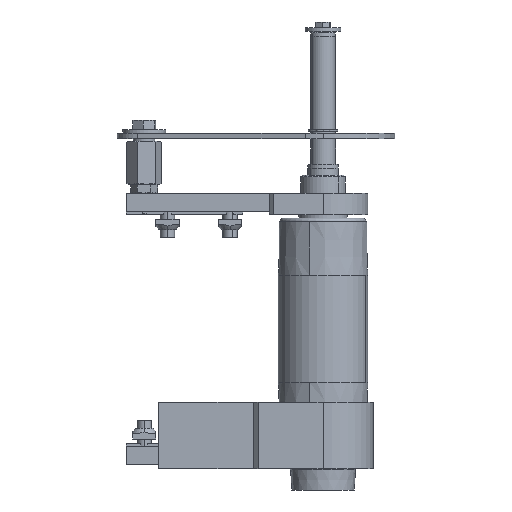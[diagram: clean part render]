
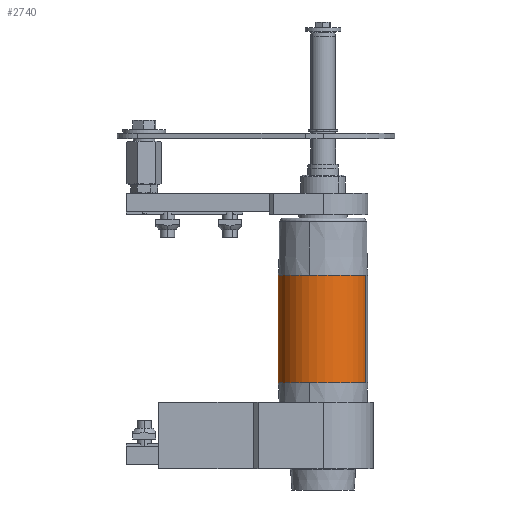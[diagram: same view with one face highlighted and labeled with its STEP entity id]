
A CAD part, front view. The second image highlights one B-rep face of the part: STEP entity #2740.
In plain terms, the highlighted cylindrical face has radius 25 mm (diameter 50 mm), a partial arc.
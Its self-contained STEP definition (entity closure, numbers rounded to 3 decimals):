
#314 = CARTESIAN_POINT ( 'NONE',  ( -30., 0., 0. ) ) ;
#389 = DIRECTION ( 'NONE',  ( 0., -1., 0. ) ) ;
#440 = EDGE_CURVE ( 'NONE', #19412, #19387, #16526, .T. ) ;
#807 = AXIS2_PLACEMENT_3D ( 'NONE', #7438, #19783, #9227 ) ;
#1161 = DIRECTION ( 'NONE',  ( 0., 0., 1. ) ) ;
#1343 = CARTESIAN_POINT ( 'NONE',  ( -30., 0., 25. ) ) ;
#2361 = DIRECTION ( 'NONE',  ( 0., -1., 0. ) ) ;
#2387 = CYLINDRICAL_SURFACE ( 'NONE', #15346, 25. ) ;
#2436 = CARTESIAN_POINT ( 'NONE',  ( -30., 0., 0. ) ) ;
#2488 = AXIS2_PLACEMENT_3D ( 'NONE', #10557, #13814, #12337 ) ;
#2740 = ADVANCED_FACE ( 'NONE', ( #9573 ), #2387, .T. ) ;
#3858 = CARTESIAN_POINT ( 'NONE',  ( -30., 0., -25. ) ) ;
#3921 = CARTESIAN_POINT ( 'NONE',  ( 30., 0., 25. ) ) ;
#4239 = VECTOR ( 'NONE', #15332, 1000. ) ;
#4351 = ORIENTED_EDGE ( 'NONE', *, *, #440, .T. ) ;
#4918 = CARTESIAN_POINT ( 'NONE',  ( 60., 0., 0. ) ) ;
#5144 = AXIS2_PLACEMENT_3D ( 'NONE', #314, #21524, #389 ) ;
#5351 = LINE ( 'NONE', #13615, #4239 ) ;
#5541 = ORIENTED_EDGE ( 'NONE', *, *, #16521, .F. ) ;
#5765 = CIRCLE ( 'NONE', #807, 25. ) ;
#5784 = EDGE_LOOP ( 'NONE', ( #16844, #12172, #4351, #8342, #5541, #14521 ) ) ;
#6011 = VECTOR ( 'NONE', #15924, 1000. ) ;
#6714 = CIRCLE ( 'NONE', #2488, 25. ) ;
#6877 = CARTESIAN_POINT ( 'NONE',  ( 60., 0., -25. ) ) ;
#7438 = CARTESIAN_POINT ( 'NONE',  ( 30., 0., 0. ) ) ;
#8342 = ORIENTED_EDGE ( 'NONE', *, *, #12090, .F. ) ;
#9227 = DIRECTION ( 'NONE',  ( 0., -1., 0. ) ) ;
#9267 = CIRCLE ( 'NONE', #14545, 25. ) ;
#9373 = VERTEX_POINT ( 'NONE', #12073 ) ;
#9573 = FACE_OUTER_BOUND ( 'NONE', #5784, .T. ) ;
#10557 = CARTESIAN_POINT ( 'NONE',  ( 30., 0., 0. ) ) ;
#11536 = VERTEX_POINT ( 'NONE', #21683 ) ;
#12073 = CARTESIAN_POINT ( 'NONE',  ( 30., 25., 0. ) ) ;
#12090 = EDGE_CURVE ( 'NONE', #11536, #19387, #9267, .T. ) ;
#12172 = ORIENTED_EDGE ( 'NONE', *, *, #17291, .T. ) ;
#12337 = DIRECTION ( 'NONE',  ( 0., -1., 0. ) ) ;
#12863 = DIRECTION ( 'NONE',  ( -1., 0., 0. ) ) ;
#13044 = VERTEX_POINT ( 'NONE', #1343 ) ;
#13615 = CARTESIAN_POINT ( 'NONE',  ( 60., 0., 25. ) ) ;
#13814 = DIRECTION ( 'NONE',  ( -1., 0., 0. ) ) ;
#14350 = EDGE_CURVE ( 'NONE', #17235, #13044, #5351, .T. ) ;
#14521 = ORIENTED_EDGE ( 'NONE', *, *, #14350, .F. ) ;
#14545 = AXIS2_PLACEMENT_3D ( 'NONE', #2436, #12863, #2361 ) ;
#15332 = DIRECTION ( 'NONE',  ( -1., 0., 0. ) ) ;
#15346 = AXIS2_PLACEMENT_3D ( 'NONE', #4918, #20700, #1161 ) ;
#15924 = DIRECTION ( 'NONE',  ( -1., 0., 0. ) ) ;
#16521 = EDGE_CURVE ( 'NONE', #13044, #11536, #19299, .T. ) ;
#16526 = LINE ( 'NONE', #6877, #6011 ) ;
#16844 = ORIENTED_EDGE ( 'NONE', *, *, #19324, .T. ) ;
#17235 = VERTEX_POINT ( 'NONE', #3921 ) ;
#17291 = EDGE_CURVE ( 'NONE', #9373, #19412, #5765, .T. ) ;
#19299 = CIRCLE ( 'NONE', #5144, 25. ) ;
#19324 = EDGE_CURVE ( 'NONE', #17235, #9373, #6714, .T. ) ;
#19387 = VERTEX_POINT ( 'NONE', #3858 ) ;
#19412 = VERTEX_POINT ( 'NONE', #19650 ) ;
#19650 = CARTESIAN_POINT ( 'NONE',  ( 30., 0., -25. ) ) ;
#19783 = DIRECTION ( 'NONE',  ( -1., 0., 0. ) ) ;
#20700 = DIRECTION ( 'NONE',  ( -1., 0., 0. ) ) ;
#21524 = DIRECTION ( 'NONE',  ( -1., 0., 0. ) ) ;
#21683 = CARTESIAN_POINT ( 'NONE',  ( -30., 25., 0. ) ) ;
